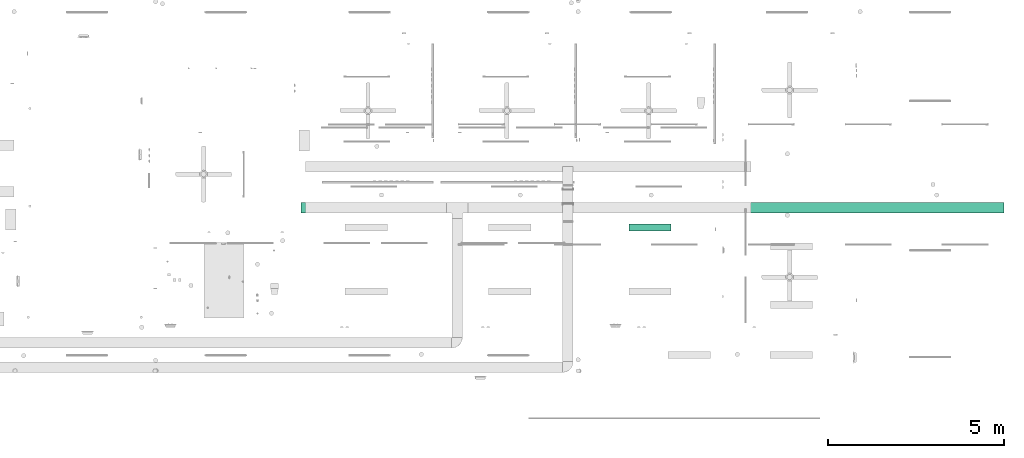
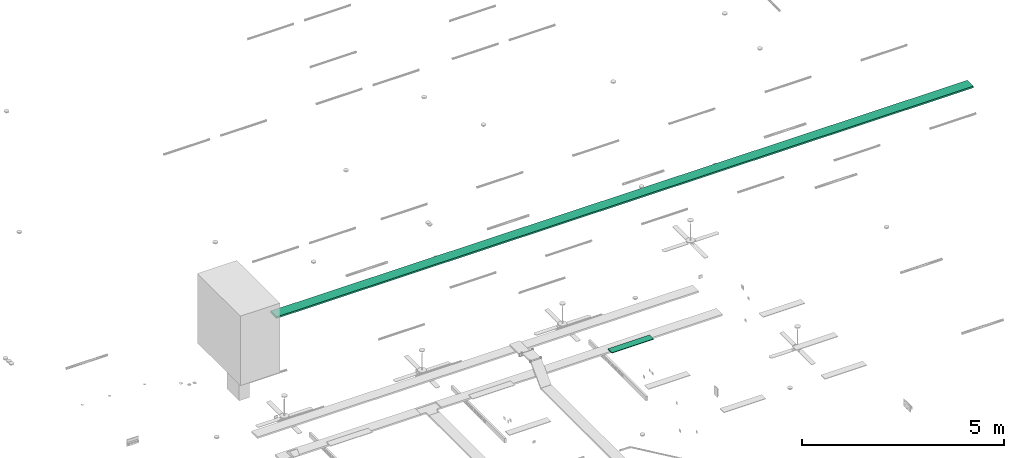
# One storey, part 23 of 153: 1 flow segment, 1 flow terminal.
"""IFC2X3 building model written with IfcOpenShell, lengths in metres."""

import ifcopenshell
import ifcopenshell.guid

model = None  # the IFC model being written
_history = None  # IfcOwnerHistory: only IFC2X3 demands one
_inside = {}  # id of a spatial element -> (the spatial element, [elements in it])
_under = {}  # id of a project, library or spatial element -> (it, [spatial elements below it])
_declared = {}  # id of a project -> (the project, [libraries it declares])
_typed = {}  # id of a type object -> (the type object, [elements of that type])
_made_of = {}  # id of a material, layer set ... -> (it, [elements and type objects made of it])


def new_model(schema):
    """Start an empty IFC model of exactly this schema.

    Asked for "IFC4X3", IfcOpenShell would pick the latest addendum, in which some entities
    have other attributes; the version numbers below select the first issue.
    IFC2X3 requires an IfcOwnerHistory on every rooted entity: one is made here for all.
    """
    global model, _history
    if schema == "IFC4X3":
        model = ifcopenshell.file(schema_version=(4, 3, 0, 0))
    else:
        model = ifcopenshell.file(schema=schema)
    _inside.clear()
    _under.clear()
    _declared.clear()
    _typed.clear()
    _made_of.clear()
    _history = None
    if model.schema == "IFC2X3":
        org = make("IfcOrganization", Name="unknown")
        user = make(
            "IfcPersonAndOrganization",
            ThePerson=make("IfcPerson", FamilyName="unknown"),
            TheOrganization=org,
        )
        app = make(
            "IfcApplication",
            ApplicationDeveloper=org,
            Version="unknown",
            ApplicationFullName="unknown",
            ApplicationIdentifier="unknown",
        )
        _history = make(
            "IfcOwnerHistory",
            OwningUser=user,
            OwningApplication=app,
            ChangeAction="ADDED",
            CreationDate=0,
        )
    return model


def make(cls, **values):
    """One entity of the class cls with the attributes given. An attribute that is None is left unset."""
    return model.create_entity(
        cls, **{name: value for name, value in values.items() if value is not None}
    )


def entity(cls, *values):
    """Any entity or typed value of the class cls, its attributes in the order of the schema. None: left unset."""
    e = model.create_entity(cls)
    for i, value in enumerate(values):
        if value is not None:
            e[i] = value
    return e


def rooted(cls, **values):
    """An entity with a GlobalId (a new one), such as an element, a storey or a relation."""
    return make(cls, GlobalId=ifcopenshell.guid.new(), OwnerHistory=_history, **values)


def si_unit(unit_type, name, prefix=None):
    """IfcSIUnit, for example si_unit("LENGTHUNIT", "METRE", prefix="MILLI")."""
    return make("IfcSIUnit", UnitType=unit_type, Prefix=prefix, Name=name)


def converted_unit(unit_type, name, factor, base, dimensions=None, offset=None):
    """IfcConversionBasedUnit, such as the inch: factor (a typed value) times the base unit."""
    return make(
        "IfcConversionBasedUnit"
        if offset is None
        else "IfcConversionBasedUnitWithOffset",
        ConversionOffset=offset,
        Dimensions=None
        if dimensions is None
        else entity("IfcDimensionalExponents", *dimensions),
        UnitType=unit_type,
        Name=name,
        ConversionFactor=make(
            "IfcMeasureWithUnit", ValueComponent=factor, UnitComponent=base
        ),
    )


def derived_unit(unit_type, elements):
    """IfcDerivedUnit: a product of units, each with its exponent."""
    return make(
        "IfcDerivedUnit",
        Elements=[
            make("IfcDerivedUnitElement", Unit=unit, Exponent=power)
            for unit, power in elements
        ],
        UnitType=unit_type,
    )


def assignment(units):
    """IfcUnitAssignment: the units of a project."""
    return None if units is None else make("IfcUnitAssignment", Units=units)


def point(xyz):
    """IfcCartesianPoint."""
    return None if xyz is None else make("IfcCartesianPoint", Coordinates=xyz)


def direction(xyz):
    """IfcDirection."""
    return None if xyz is None else make("IfcDirection", DirectionRatios=xyz)


def frame(location, z_axis=None, x_axis=None):
    """IfcAxis2Placement3D, a coordinate frame: its origin and axes. An axis left out is left unset."""
    return make(
        "IfcAxis2Placement3D",
        Location=point(location),
        Axis=direction(z_axis),
        RefDirection=direction(x_axis),
    )


def frame_2d(location, x_axis=None):
    """IfcAxis2Placement2D, a coordinate frame in the plane: its origin and x axis."""
    return make(
        "IfcAxis2Placement2D", Location=point(location), RefDirection=direction(x_axis)
    )


def origin():
    """The frame at (0, 0, 0) with its axes left unset."""
    return frame((0.0, 0.0, 0.0))


def origin_2d_with_axis():
    """The frame at (0, 0) in the plane with the x axis (1, 0) written out."""
    return frame_2d((0.0, 0.0), x_axis=(1.0, 0.0))


def place(relative_to, where):
    """IfcLocalPlacement: puts the frame where relative to a parent placement (None: the world)."""
    return make(
        "IfcLocalPlacement", PlacementRelTo=relative_to, RelativePlacement=where
    )


def context(
    kind, dimensions, precision=None, world=None, true_north=None, identifier=None
):
    """IfcGeometricRepresentationContext, for example the 3D "Model" context."""
    return make(
        "IfcGeometricRepresentationContext",
        ContextIdentifier=identifier,
        ContextType=kind,
        CoordinateSpaceDimension=dimensions,
        Precision=precision,
        WorldCoordinateSystem=world,
        TrueNorth=true_north,
    )


def subcontext(parent, identifier, kind, view, scale=None):
    """IfcGeometricRepresentationSubContext, for example "Body" below "Model"."""
    return make(
        "IfcGeometricRepresentationSubContext",
        ContextIdentifier=identifier,
        ContextType=kind,
        ParentContext=parent,
        TargetScale=scale,
        TargetView=view,
    )


def project(units=None, contexts=None):
    """IfcProject with its units and contexts."""
    return rooted(
        "IfcProject",
        Name="project",
        RepresentationContexts=contexts,
        UnitsInContext=assignment(units),
    )


def spatial(cls, under=None, at=None, **own):
    """A site, building, storey or space (cls), placed at a placement, below another one or the project."""
    s = rooted(cls, ObjectPlacement=at, **own)
    if under is not None:
        _under.setdefault(under.id(), (under, []))[1].append(s)
    return s


def profile(cls, at=None, kind="AREA", **sizes):
    """A parametric profile (cls). Its sizes go by their IFC names, for example OverallWidth=200.0."""
    return make(cls, ProfileType=kind, Position=at, **sizes)


def rectangle(**sizes):
    """IfcRectangleProfileDef."""
    return profile("IfcRectangleProfileDef", **sizes)


def extrude(swept, where, along, depth):
    """IfcExtrudedAreaSolid: the profile swept, set in the frame where, extruded along a direction by depth."""
    return make(
        "IfcExtrudedAreaSolid",
        SweptArea=swept,
        Position=where,
        ExtrudedDirection=direction(along),
        Depth=depth,
    )


def shape(context_of_items, identifier, shape_type, items):
    """IfcShapeRepresentation: the items that make up one representation, for example the "Body"."""
    return make(
        "IfcShapeRepresentation",
        ContextOfItems=context_of_items,
        RepresentationIdentifier=identifier,
        RepresentationType=shape_type,
        Items=items,
    )


def source(mapping_origin, context_of_items, identifier, shape_type, items):
    """IfcRepresentationMap: a shape defined once, which mapped items show again and again."""
    return make(
        "IfcRepresentationMap",
        MappingOrigin=mapping_origin,
        MappedRepresentation=shape(context_of_items, identifier, shape_type, items),
    )


def transform(
    local_origin,
    x_axis=None,
    y_axis=None,
    z_axis=None,
    scale=None,
    scale2=None,
    scale3=None,
    uniform=True,
):
    """IfcCartesianTransformationOperator3D, or its non-uniform kind. x_axis, y_axis, z_axis: its Axis1, 2, 3."""
    if uniform:
        return make(
            "IfcCartesianTransformationOperator3D",
            Axis1=direction(x_axis),
            Axis2=direction(y_axis),
            LocalOrigin=point(local_origin),
            Scale=scale,
            Axis3=direction(z_axis),
        )
    return make(
        "IfcCartesianTransformationOperator3DnonUniform",
        Axis1=direction(x_axis),
        Axis2=direction(y_axis),
        LocalOrigin=point(local_origin),
        Scale=scale,
        Axis3=direction(z_axis),
        Scale2=scale2,
        Scale3=scale3,
    )


def mapped(mapping_source, mapping_target):
    """IfcMappedItem: shows the shape of a source again, moved by a transform."""
    return make(
        "IfcMappedItem", MappingSource=mapping_source, MappingTarget=mapping_target
    )


def made_of(thing, what):
    """Note that an element or type object is made of a material, layer set ...; save() writes the relation."""
    if what is not None:
        _made_of.setdefault(what.id(), (what, []))[1].append(thing)
    return thing


def type_object(cls, material=None, **own):
    """A type object (cls), such as IfcWallType, which elements share."""
    return made_of(rooted(cls, **own), material)


def type_shapes(of_type, sources):
    """Give a type object the sources (RepresentationMaps) that its elements show as mapped items."""
    of_type.RepresentationMaps = sources


def element(
    cls,
    number,
    at=None,
    inside=None,
    cuts=None,
    type_object=None,
    material=None,
    context=None,
    identifier="Body",
    shape_type=None,
    held_by="IfcProductDefinitionShape",
    body=None,
    shapes=None,
    **own,
):
    """One element of the class cls, such as IfcWall. Its Tag is "e" and its number.

    at: its placement. inside: the storey or other place that contains it. cuts: it is an
    opening in that element (IfcRelVoidsElement). A single representation is given by context,
    identifier, shape_type and body (its items); several are given by shapes. held_by: the class
    of the entity that holds the representations. save() writes the other relations.
    """
    e = rooted(cls, Tag="e%d" % number, ObjectPlacement=at, **own)
    if body is not None:
        shapes = [shape(context, identifier, shape_type, body)]
    if shapes is not None:
        e.Representation = make(held_by, Representations=shapes)
    if inside is not None:
        _inside.setdefault(inside.id(), (inside, []))[1].append(e)
    if cuts is not None:
        rooted(
            "IfcRelVoidsElement", RelatingBuildingElement=cuts, RelatedOpeningElement=e
        )
    if type_object is not None:
        _typed.setdefault(type_object.id(), (type_object, []))[1].append(e)
    return made_of(e, material)


def aggregate(whole, parts):
    """IfcRelAggregates: a whole, such as a stair, and the parts it consists of."""
    return rooted("IfcRelAggregates", RelatingObject=whole, RelatedObjects=parts)


def save(model, path):
    """Write the relations noted so far, then the file.

    IfcRelAggregates (storeys below a building ...), IfcRelContainedInSpatialStructure (elements
    in a storey), IfcRelDefinesByType, IfcRelAssociatesMaterial and IfcRelDeclares: one each for
    every whole, place, type object, material and project.
    """
    for whole, parts in _under.values():
        aggregate(whole, parts)
    for where, things in _inside.values():
        rooted(
            "IfcRelContainedInSpatialStructure",
            RelatedElements=things,
            RelatingStructure=where,
        )
    for kind, things in _typed.values():
        rooted("IfcRelDefinesByType", RelatedObjects=things, RelatingType=kind)
    for what, things in _made_of.values():
        rooted("IfcRelAssociatesMaterial", RelatedObjects=things, RelatingMaterial=what)
    for by, libraries in _declared.values():
        rooted("IfcRelDeclares", RelatingContext=by, RelatedDefinitions=libraries)
    model.write(path)


model = new_model("IFC2X3")

# Units and contexts
model_context = context("Model", 3, precision=1e-05, world=origin(), true_north=direction((6.12303176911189e-17, 1.0)))
body_context = subcontext(model_context, "Body", "Model", "MODEL_VIEW")
ifc_project = project(units=[si_unit("LENGTHUNIT", "METRE"), si_unit("AREAUNIT", "SQUARE_METRE"), si_unit("VOLUMEUNIT", "CUBIC_METRE"), converted_unit("PLANEANGLEUNIT", "DEGREE", entity("IfcRatioMeasure", 0.0174532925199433), si_unit("PLANEANGLEUNIT", "RADIAN"), dimensions=[0, 0, 0, 0, 0, 0, 0]), si_unit("MASSUNIT", "GRAM", prefix="KILO"), derived_unit("MASSDENSITYUNIT", [(si_unit("MASSUNIT", "GRAM", prefix="KILO"), 1), (si_unit("LENGTHUNIT", "METRE"), -3)]), si_unit("TIMEUNIT", "SECOND"), si_unit("FREQUENCYUNIT", "HERTZ"), si_unit("THERMODYNAMICTEMPERATUREUNIT", "DEGREE_CELSIUS"), derived_unit("THERMALTRANSMITTANCEUNIT", [(si_unit("MASSUNIT", "GRAM", prefix="KILO"), 1), (si_unit("THERMODYNAMICTEMPERATUREUNIT", "KELVIN"), -1), (si_unit("TIMEUNIT", "SECOND"), -3)]), derived_unit("VOLUMETRICFLOWRATEUNIT", [(si_unit("LENGTHUNIT", "METRE"), 3), (si_unit("TIMEUNIT", "SECOND"), -1)]), si_unit("ELECTRICCURRENTUNIT", "AMPERE"), si_unit("ELECTRICVOLTAGEUNIT", "VOLT"), si_unit("POWERUNIT", "WATT"), si_unit("FORCEUNIT", "NEWTON"), si_unit("ILLUMINANCEUNIT", "LUX"), si_unit("LUMINOUSFLUXUNIT", "LUMEN"), si_unit("LUMINOUSINTENSITYUNIT", "CANDELA"), derived_unit("USERDEFINED", [(si_unit("MASSUNIT", "GRAM", prefix="KILO"), -1), (si_unit("LENGTHUNIT", "METRE"), -2), (si_unit("TIMEUNIT", "SECOND"), 3), (si_unit("LUMINOUSFLUXUNIT", "LUMEN"), 1)]), derived_unit("LINEARVELOCITYUNIT", [(si_unit("LENGTHUNIT", "METRE"), 1), (si_unit("TIMEUNIT", "SECOND"), -1)]), si_unit("PRESSUREUNIT", "PASCAL"), derived_unit("USERDEFINED", [(si_unit("LENGTHUNIT", "METRE"), -2), (si_unit("MASSUNIT", "GRAM", prefix="KILO"), 1), (si_unit("TIMEUNIT", "SECOND"), -2)])], contexts=[model_context])

# Site, building, storey
site_placement = place(None, origin())
site = spatial("IfcSite", under=ifc_project, at=site_placement, Name="Default", CompositionType="ELEMENT")
building_placement = place(site_placement, origin())
building = spatial("IfcBuilding", under=site, at=building_placement, CompositionType="ELEMENT")
storey_placement = place(building_placement, frame((0.0, 0.0, -4.62)))
storey = spatial("IfcBuildingStorey", under=building, at=storey_placement, Name="S02", CompositionType="ELEMENT", Elevation=-4.62)

# Flow segment
cable_carrier_segment_type = type_object("IfcCableCarrierSegmentType", Name="Cable Tray with Fittings:Chemins de câbles en treillis_Chemins de câbles en treillis", PredefinedType="NOTDEFINED")
flow_segment_placement = place(storey_placement, origin())
element("IfcFlowSegment", 1, at=flow_segment_placement, inside=storey, type_object=cable_carrier_segment_type, Name="Cable Tray with Fittings:Chemins de câbles en treillis_Chemins de câbles en treillis", ObjectType="Cable Tray with Fittings:Chemins de câbles en treillis_Chemins de câbles en treillis", context=body_context, shape_type="SweptSolid", body=[
    extrude(rectangle(XDim=19.9383930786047, YDim=0.300000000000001, at=origin_2d_with_axis()), frame((59.6012412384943, -189.865826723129, 8.15), z_axis=(0.0, 0.0, 1.0), x_axis=(-1.0, 0.0, 0.0)), (0.0, 0.0, 1.0), 0.0500000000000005),
])

# Flow terminal
light_fixture_type = type_object("IfcLightFixtureType", Name="B_Réglete étanche", PredefinedType="NOTDEFINED")
shared_shape = source(origin(), body_context, "Body", "SweptSolid", [
    extrude(rectangle(XDim=0.199999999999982, YDim=1.2, at=origin_2d_with_axis()), frame((0.0, 0.0, 0.0), z_axis=(0.0, 0.0, 1.0), x_axis=(0.0, 1.0, 0.0)), (0.0, 0.0, 1.0), 0.02),
])
type_shapes(light_fixture_type, [shared_shape])
flow_terminal_placement = place(storey_placement, frame((59.5296087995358, -190.432084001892, 4.175), z_axis=(0.0, 0.0, -1.0), x_axis=(-1.0, 0.0, 0.0)))
element("IfcFlowTerminal", 2, at=flow_terminal_placement, inside=storey, type_object=light_fixture_type, Name="II_PREF_Type B Réglette étanche:B_Réglete étanche", ObjectType="II_PREF_Type B Réglette étanche:B_Réglete étanche", context=body_context, shape_type="MappedRepresentation", body=[
    mapped(shared_shape, transform((0.0, 0.0, 0.0), scale=1.0)),
])

save(model, "model.ifc")
